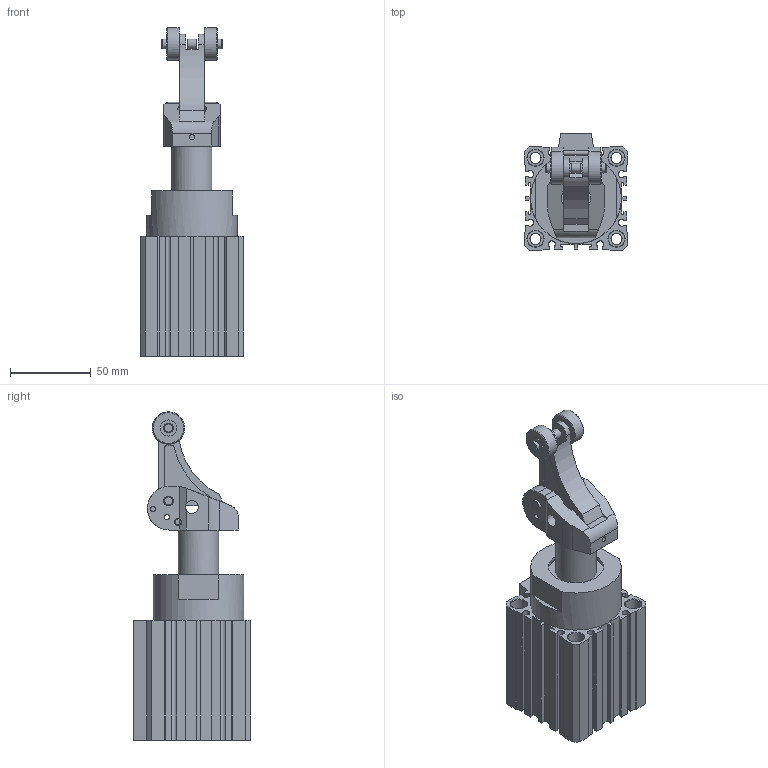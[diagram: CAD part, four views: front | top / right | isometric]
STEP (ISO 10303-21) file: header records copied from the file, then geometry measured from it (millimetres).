
FILE_DESCRIPTION((''),'2;1');
FILE_NAME('I:\3D電子目錄\氣缸\STD\STD50\STD50x20.stp','2007-09-20T14:37:15',('Administrator'),(''),'Autodesk Inventor 11','Autodesk Inventor 11','');
FILE_SCHEMA(('AUTOMOTIVE_DESIGN { 1 0 10303 214 1 1 1 1 }'));
Length unit declared in the file: millimetre
Products named in the file (1): STD50
Bounding box: 64 x 72 x 202.7 mm (x, y, z)
Volume: 387927.6 mm3; surface area: 70879.3 mm2
Topology: 4 solids, 4 shells, 287 faces, 768 edges, 498 vertices
Faces by surface type: plane 169, cylinder 76, bspline 21, cone 20, torus 1
Full cylindrical faces by diameter (mm): 3 x1, 3.1 x4, 3.8 x1, 4 x1, 6 x6, 6.8 x4, 8 x2, 10 x10, 20 x2, 25 x1, 25.2 x1, 29 x1, 34 x1, 35.7 x1, 42 x2, 44.5 x1, 56 x1
Entity records: 9480 total; most frequent: CARTESIAN_POINT 2486, DIRECTION 1422, ORIENTED_EDGE 1386, EDGE_CURVE 693, AXIS2_PLACEMENT_3D 493, VERTEX_POINT 486, VECTOR 436, LINE 436
